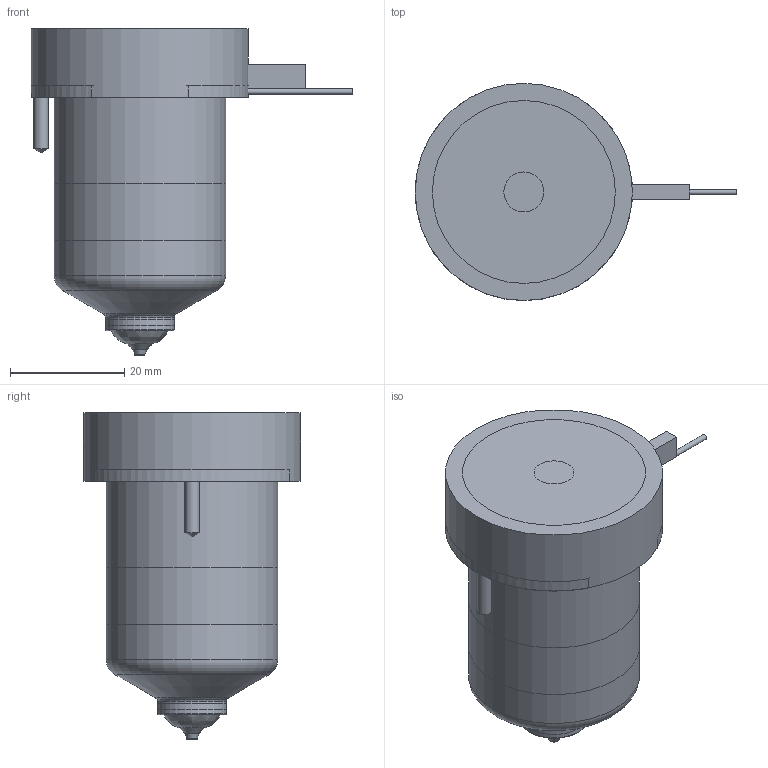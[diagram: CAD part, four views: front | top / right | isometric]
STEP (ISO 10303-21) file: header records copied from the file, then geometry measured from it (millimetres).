
FILE_DESCRIPTION(/* description */ (''),/* implementation_level */ '2;1');
FILE_NAME(/* name */ 'BXTV16045_200C_b',/* time_stamp */ '2007-01-18T10:01:56+13:00',/* author */ (''),/* organization */ (''),/* preprocessor_version */ 'ST-DEVELOPER v9',/* originating_system */ 'UGS - NX 4.0',/* authorisation */ '');
FILE_SCHEMA (('CONFIG_CONTROL_DESIGN'));
Length unit declared in the file: millimetre
Products named in the file (1): BXTV16045_200C_b
Bounding box: 56.25 x 38 x 57.12 mm (x, y, z)
Volume: 76387.5 mm3; surface area: 17057.1 mm2
Topology: 6 solids, 6 shells, 82 faces, 163 edges, 104 vertices
Faces by surface type: plane 36, cylinder 23, cone 13, torus 8, bspline 2
Full cylindrical faces by diameter (mm): 1 x3, 2.5 x3, 7 x1, 11.61 x1, 12.01 x2, 14.8 x1, 25.4 x1, 30 x2, 38 x1
Entity records: 2035 total; most frequent: CARTESIAN_POINT 419, DIRECTION 340, ORIENTED_EDGE 236, AXIS2_PLACEMENT_3D 151, EDGE_LOOP 128, EDGE_CURVE 118, VERTEX_POINT 95, ADVANCED_FACE 82
